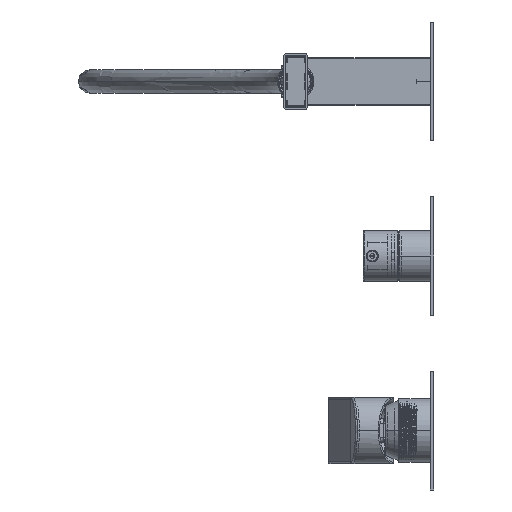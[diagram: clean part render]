
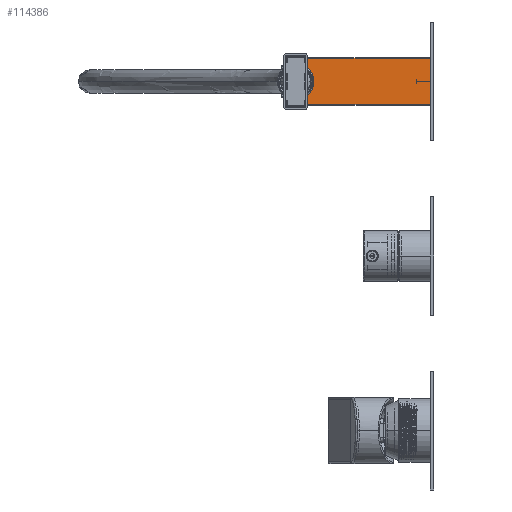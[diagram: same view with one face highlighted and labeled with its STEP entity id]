
A CAD part, left-side view. The second image highlights one B-rep face of the part: STEP entity #114386.
In plain terms, the highlighted planar face has unit normal (-1, 0, 0).
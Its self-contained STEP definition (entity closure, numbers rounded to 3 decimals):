
#104108=DIRECTION('',(0.,0.,1.));
#104109=VECTOR('',#104108,29.);
#104110=CARTESIAN_POINT('',(-11.,77.,95.5));
#104111=LINE('',#104110,#104109);
#104112=DIRECTION('',(0.,1.,0.));
#104113=VECTOR('',#104112,88.109);
#104114=CARTESIAN_POINT('',(-11.,77.,95.5));
#104115=LINE('',#104114,#104113);
#104116=DIRECTION('',(0.,0.,-1.));
#104117=VECTOR('',#104116,3.318);
#104118=CARTESIAN_POINT('',(-11.,165.109,98.818));
#104119=LINE('',#104118,#104117);
#104120=CARTESIAN_POINT('',(-11.,162.,110.));
#104121=DIRECTION('',(1.,0.,0.));
#104122=DIRECTION('',(0.,0.267,0.964));
#104123=AXIS2_PLACEMENT_3D('',#104120,#104121,#104122);
#104125=DIRECTION('',(0.,0.,-1.));
#104126=VECTOR('',#104125,3.316);
#104127=CARTESIAN_POINT('',(-11.,165.1,124.5));
#104128=LINE('',#104127,#104126);
#104129=DIRECTION('',(0.,-1.,0.));
#104130=VECTOR('',#104129,88.1);
#104131=CARTESIAN_POINT('',(-11.,165.1,124.5));
#104132=LINE('',#104131,#104130);
#104529=CARTESIAN_POINT('',(-11.,165.1,121.184));
#104530=CARTESIAN_POINT('',(-11.,165.109,98.818));
#104531=VERTEX_POINT('',#104529);
#104532=VERTEX_POINT('',#104530);
#104533=CARTESIAN_POINT('',(-11.,165.109,95.5));
#104534=VERTEX_POINT('',#104533);
#104563=CARTESIAN_POINT('',(-11.,165.1,124.5));
#104564=VERTEX_POINT('',#104563);
#104615=CARTESIAN_POINT('',(-11.,77.,95.5));
#104616=CARTESIAN_POINT('',(-11.,77.,124.5));
#104617=VERTEX_POINT('',#104615);
#104618=VERTEX_POINT('',#104616);
#114369=CARTESIAN_POINT('',(-11.,77.,125.));
#114370=DIRECTION('',(1.,0.,0.));
#114371=DIRECTION('',(0.,1.,0.));
#114372=AXIS2_PLACEMENT_3D('',#114369,#114370,#114371);
#114373=PLANE('',#114372);
#114374=ORIENTED_EDGE('',*,*,#105912,.F.);
#114376=ORIENTED_EDGE('',*,*,#114375,.T.);
#114378=ORIENTED_EDGE('',*,*,#114377,.F.);
#114380=ORIENTED_EDGE('',*,*,#114379,.F.);
#114382=ORIENTED_EDGE('',*,*,#114381,.F.);
#114383=ORIENTED_EDGE('',*,*,#114361,.T.);
#114384=EDGE_LOOP('',(#114374,#114376,#114378,#114380,#114382,#114383));
#114385=FACE_OUTER_BOUND('',#114384,.F.);
#114386=ADVANCED_FACE('',(#114385),#114373,.F.);
#104124=CIRCLE('',#104123,11.606);
#105912=EDGE_CURVE('',#104617,#104618,#104111,.T.);
#114361=EDGE_CURVE('',#104564,#104618,#104132,.T.);
#114375=EDGE_CURVE('',#104617,#104534,#104115,.T.);
#114377=EDGE_CURVE('',#104532,#104534,#104119,.T.);
#114379=EDGE_CURVE('',#104531,#104532,#104124,.T.);
#114381=EDGE_CURVE('',#104564,#104531,#104128,.T.);
